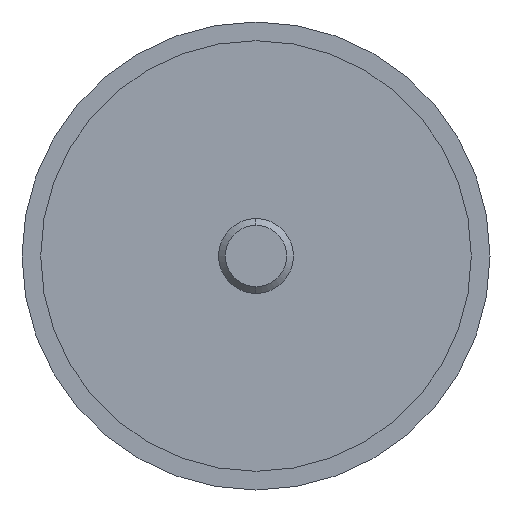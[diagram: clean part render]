
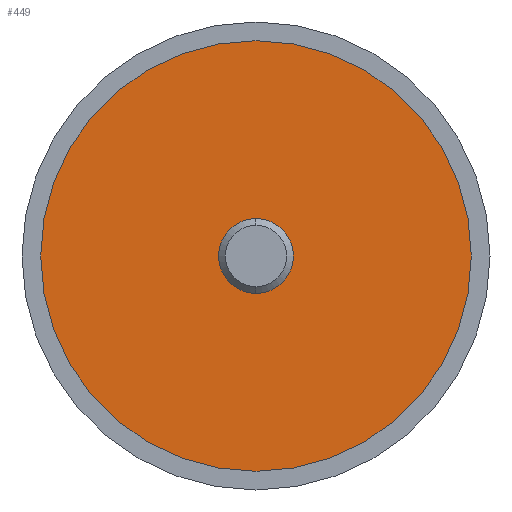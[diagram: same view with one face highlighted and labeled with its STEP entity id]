
A CAD part, left-side view. The second image highlights one B-rep face of the part: STEP entity #449.
In plain terms, the highlighted planar face has unit normal (-1, 0, 0).
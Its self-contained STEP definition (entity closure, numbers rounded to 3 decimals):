
#4 = ORIENTED_EDGE ( 'NONE', *, *, #629, .T. ) ;
#49 = CARTESIAN_POINT ( 'NONE',  ( -27.49, 0., -34.5 ) ) ;
#75 = DIRECTION ( 'NONE',  ( 0., 0., -1. ) ) ;
#81 = CARTESIAN_POINT ( 'NONE',  ( -27.49, 34.5, 0. ) ) ;
#86 = PLANE ( 'NONE',  #239 ) ;
#118 = ORIENTED_EDGE ( 'NONE', *, *, #237, .T. ) ;
#141 = AXIS2_PLACEMENT_3D ( 'NONE', #269, #322, #484 ) ;
#167 = DIRECTION ( 'NONE',  ( -1., 0., 0. ) ) ;
#205 = CIRCLE ( 'NONE', #632, 6. ) ;
#211 = VERTEX_POINT ( 'NONE', #213 ) ;
#213 = CARTESIAN_POINT ( 'NONE',  ( -27.49, 0., 6. ) ) ;
#223 = CARTESIAN_POINT ( 'NONE',  ( -27.49, 0., -6. ) ) ;
#232 = CARTESIAN_POINT ( 'NONE',  ( -27.49, 0., 34.5 ) ) ;
#237 = EDGE_CURVE ( 'NONE', #368, #538, #362, .T. ) ;
#239 = AXIS2_PLACEMENT_3D ( 'NONE', #81, #349, #619 ) ;
#265 = CARTESIAN_POINT ( 'NONE',  ( -27.49, 0., 0. ) ) ;
#269 = CARTESIAN_POINT ( 'NONE',  ( -27.49, 0., 0. ) ) ;
#282 = VERTEX_POINT ( 'NONE', #223 ) ;
#312 = DIRECTION ( 'NONE',  ( 0., 0., -1. ) ) ;
#317 = EDGE_LOOP ( 'NONE', ( #436, #335 ) ) ;
#322 = DIRECTION ( 'NONE',  ( -1., 0., 0. ) ) ;
#335 = ORIENTED_EDGE ( 'NONE', *, *, #480, .F. ) ;
#349 = DIRECTION ( 'NONE',  ( 1., 0., 0. ) ) ;
#362 = CIRCLE ( 'NONE', #407, 34.5 ) ;
#366 = EDGE_CURVE ( 'NONE', #211, #282, #420, .T. ) ;
#367 = DIRECTION ( 'NONE',  ( 0., 0., 1. ) ) ;
#368 = VERTEX_POINT ( 'NONE', #232 ) ;
#382 = DIRECTION ( 'NONE',  ( -1., 0., 0. ) ) ;
#407 = AXIS2_PLACEMENT_3D ( 'NONE', #633, #167, #367 ) ;
#420 = CIRCLE ( 'NONE', #665, 6. ) ;
#425 = EDGE_LOOP ( 'NONE', ( #118, #4 ) ) ;
#436 = ORIENTED_EDGE ( 'NONE', *, *, #366, .F. ) ;
#449 = ADVANCED_FACE ( 'NONE', ( #654, #617 ), #86, .F. ) ;
#480 = EDGE_CURVE ( 'NONE', #282, #211, #205, .T. ) ;
#484 = DIRECTION ( 'NONE',  ( 0., 0., 1. ) ) ;
#538 = VERTEX_POINT ( 'NONE', #49 ) ;
#550 = CIRCLE ( 'NONE', #141, 34.5 ) ;
#552 = CARTESIAN_POINT ( 'NONE',  ( -27.49, 0., 0. ) ) ;
#580 = DIRECTION ( 'NONE',  ( -1., 0., 0. ) ) ;
#617 = FACE_BOUND ( 'NONE', #317, .T. ) ;
#619 = DIRECTION ( 'NONE',  ( 0., 0., -1. ) ) ;
#629 = EDGE_CURVE ( 'NONE', #538, #368, #550, .T. ) ;
#632 = AXIS2_PLACEMENT_3D ( 'NONE', #265, #580, #312 ) ;
#633 = CARTESIAN_POINT ( 'NONE',  ( -27.49, 0., 0. ) ) ;
#654 = FACE_OUTER_BOUND ( 'NONE', #425, .T. ) ;
#665 = AXIS2_PLACEMENT_3D ( 'NONE', #552, #382, #75 ) ;
